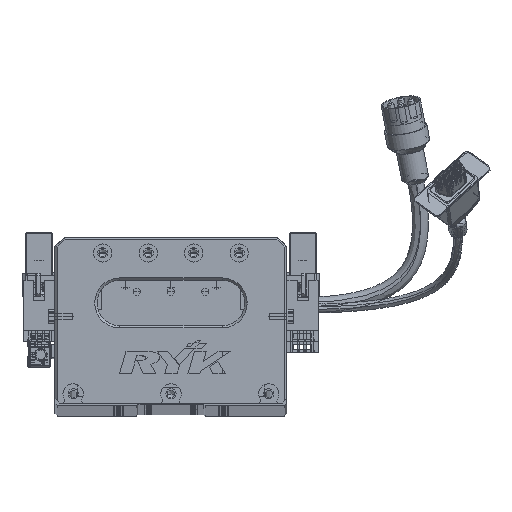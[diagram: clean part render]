
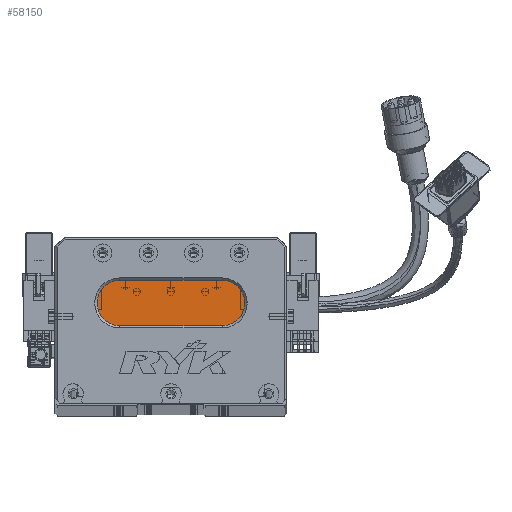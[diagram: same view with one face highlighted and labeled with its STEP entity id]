
A CAD part, top view. The second image highlights one B-rep face of the part: STEP entity #58150.
In plain terms, the highlighted planar face has unit normal (0, 0, 1) as drawn and (0, 0, -1) by its records, which use the part's own axes.
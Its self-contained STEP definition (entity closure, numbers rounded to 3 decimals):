
#2999 = CARTESIAN_POINT ( 'NONE',  ( 18.5, 44., 13. ) ) ;
#5146 = AXIS2_PLACEMENT_3D ( 'NONE', #51712, #52004, #59671 ) ;
#5696 = EDGE_CURVE ( 'NONE', #45395, #22390, #63380, .T. ) ;
#6934 = LINE ( 'NONE', #47031, #49405 ) ;
#7158 = ORIENTED_EDGE ( 'NONE', *, *, #28607, .T. ) ;
#8650 = DIRECTION ( 'NONE',  ( 0., 0., -1. ) ) ;
#14607 = CIRCLE ( 'NONE', #28746, 10. ) ;
#15367 = CARTESIAN_POINT ( 'NONE',  ( 28.5, 34., 13. ) ) ;
#15826 = ORIENTED_EDGE ( 'NONE', *, *, #5696, .T. ) ;
#15965 = EDGE_CURVE ( 'NONE', #51509, #45395, #14607, .T. ) ;
#16233 = ORIENTED_EDGE ( 'NONE', *, *, #80998, .T. ) ;
#21574 = ORIENTED_EDGE ( 'NONE', *, *, #46334, .T. ) ;
#22390 = VERTEX_POINT ( 'NONE', #29990 ) ;
#28607 = EDGE_CURVE ( 'NONE', #22390, #32487, #6934, .T. ) ;
#28746 = AXIS2_PLACEMENT_3D ( 'NONE', #65696, #32448, #38972 ) ;
#29560 = CARTESIAN_POINT ( 'NONE',  ( 73.5, 54., 13. ) ) ;
#29990 = CARTESIAN_POINT ( 'NONE',  ( 28.5, 54., 13. ) ) ;
#32448 = DIRECTION ( 'NONE',  ( 0., 0., -1. ) ) ;
#32487 = VERTEX_POINT ( 'NONE', #29560 ) ;
#37404 = LINE ( 'NONE', #80723, #61844 ) ;
#38972 = DIRECTION ( 'NONE',  ( -1., 0., 0. ) ) ;
#39449 = DIRECTION ( 'NONE',  ( -1., 0., 0. ) ) ;
#43384 = ORIENTED_EDGE ( 'NONE', *, *, #15965, .T. ) ;
#45395 = VERTEX_POINT ( 'NONE', #2999 ) ;
#46334 = EDGE_CURVE ( 'NONE', #60759, #51509, #37404, .T. ) ;
#47031 = CARTESIAN_POINT ( 'NONE',  ( 73.5, 54., 13. ) ) ;
#49001 = CARTESIAN_POINT ( 'NONE',  ( 28.5, 44., 13. ) ) ;
#49405 = VECTOR ( 'NONE', #87130, 1000. ) ;
#51509 = VERTEX_POINT ( 'NONE', #15367 ) ;
#51698 = CARTESIAN_POINT ( 'NONE',  ( 73.5, 34., 13. ) ) ;
#51712 = CARTESIAN_POINT ( 'NONE',  ( 73.5, 44., 13. ) ) ;
#52004 = DIRECTION ( 'NONE',  ( 0., 0., -1. ) ) ;
#52590 = PLANE ( 'NONE',  #5146 ) ;
#52895 = DIRECTION ( 'NONE',  ( -1., 0., 0. ) ) ;
#53180 = DIRECTION ( 'NONE',  ( 0., 0., -1. ) ) ;
#58150 = ADVANCED_FACE ( 'NONE', ( #85424 ), #52590, .T. ) ;
#59671 = DIRECTION ( 'NONE',  ( -1., 0., 0. ) ) ;
#60759 = VERTEX_POINT ( 'NONE', #51698 ) ;
#61844 = VECTOR ( 'NONE', #39449, 1000. ) ;
#63380 = CIRCLE ( 'NONE', #74781, 10. ) ;
#65176 = CIRCLE ( 'NONE', #75220, 10. ) ;
#65633 = CARTESIAN_POINT ( 'NONE',  ( 73.5, 44., 13. ) ) ;
#65696 = CARTESIAN_POINT ( 'NONE',  ( 28.5, 44., 13. ) ) ;
#74781 = AXIS2_PLACEMENT_3D ( 'NONE', #49001, #8650, #76912 ) ;
#75220 = AXIS2_PLACEMENT_3D ( 'NONE', #65633, #53180, #52895 ) ;
#76912 = DIRECTION ( 'NONE',  ( -1., 0., 0. ) ) ;
#80723 = CARTESIAN_POINT ( 'NONE',  ( 73.5, 34., 13. ) ) ;
#80998 = EDGE_CURVE ( 'NONE', #32487, #60759, #65176, .T. ) ;
#84224 = EDGE_LOOP ( 'NONE', ( #16233, #21574, #43384, #15826, #7158 ) ) ;
#85424 = FACE_OUTER_BOUND ( 'NONE', #84224, .T. ) ;
#87130 = DIRECTION ( 'NONE',  ( 1., 0., 0. ) ) ;
